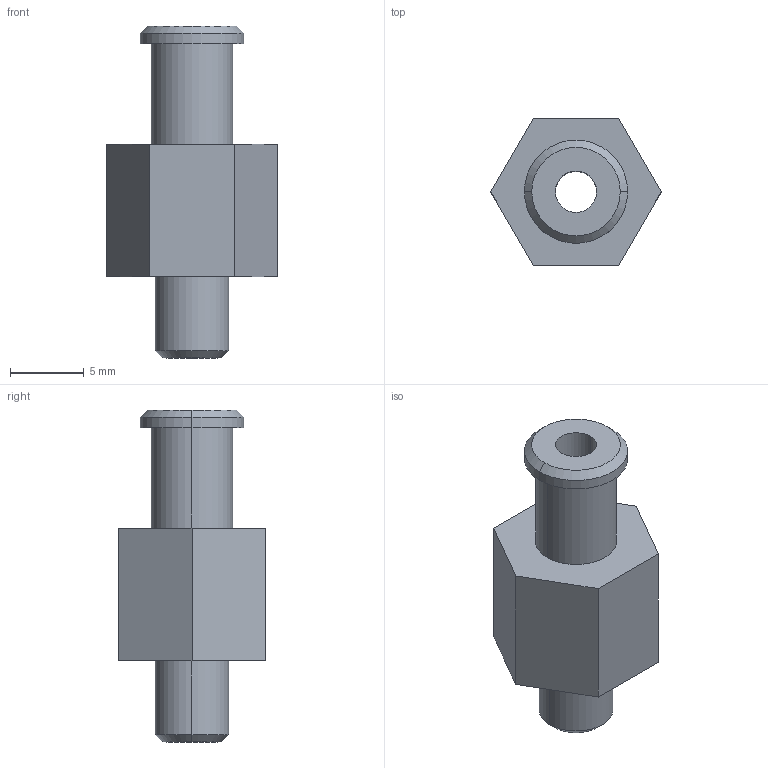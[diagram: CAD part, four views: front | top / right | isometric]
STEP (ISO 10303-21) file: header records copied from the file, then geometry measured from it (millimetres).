
FILE_DESCRIPTION (( 'STEP AP214' ), '1' );
FILE_NAME ('VM39-M5.STEP', '2023-03-07T09:03:06', ( 'Windows User' ), ( 'P R C' ), 'SwSTEP 2.0', 'SolidWorks 2019', '' );
FILE_SCHEMA (( 'AUTOMOTIVE_DESIGN' ));
Length unit declared in the file: millimetre
Products named in the file (1): VM39-M5
Bounding box: 11.55 x 10 x 22.5 mm (x, y, z)
Volume: 952.2 mm3; surface area: 918.6 mm2
Topology: 1 solids, 1 shells, 23 faces, 50 edges, 32 vertices
Faces by surface type: plane 11, cylinder 8, cone 4
Entity records: 670 total; most frequent: DIRECTION 118, CARTESIAN_POINT 106, ORIENTED_EDGE 100, EDGE_CURVE 50, AXIS2_PLACEMENT_3D 44, VERTEX_POINT 32, LINE 30, VECTOR 30
